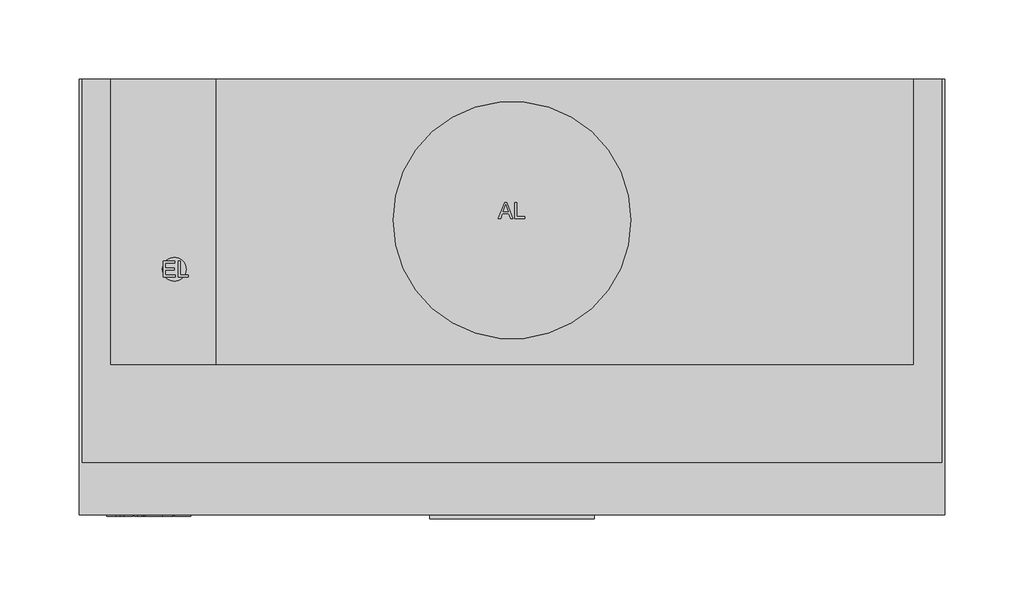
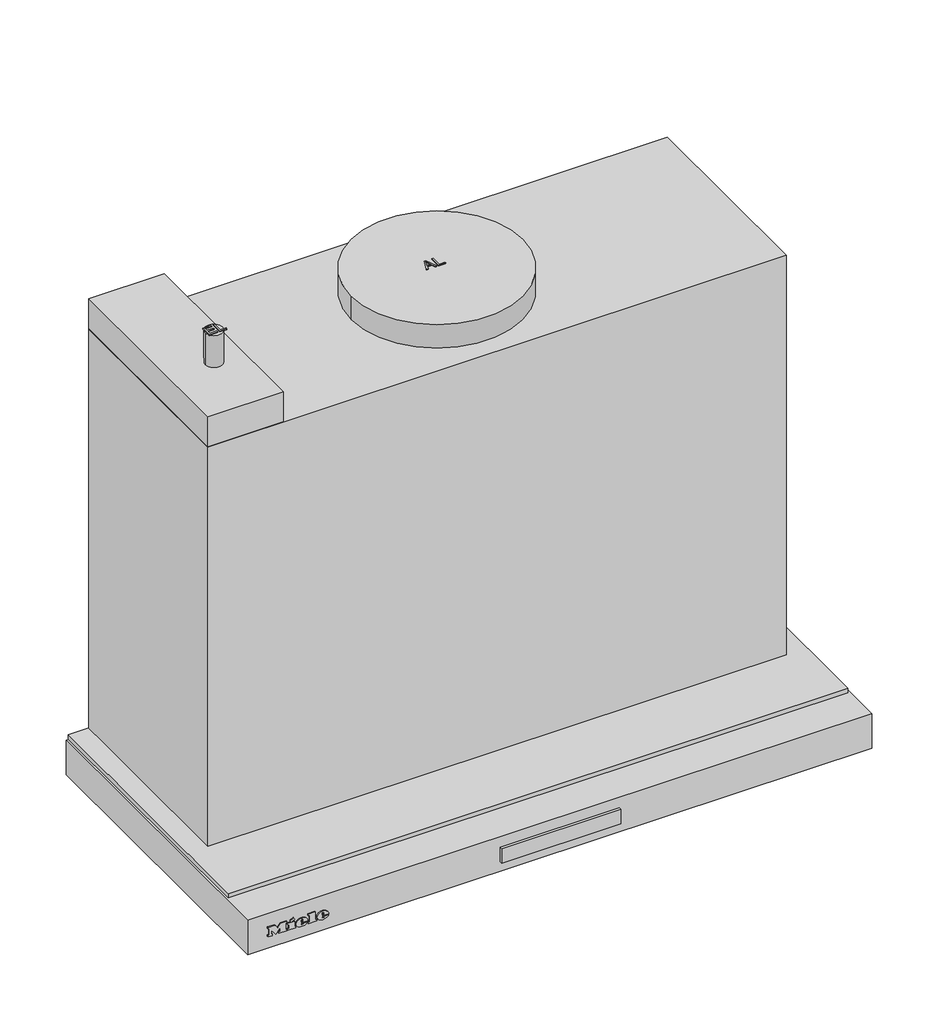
# Not in any storey: 1 proxy.
"""IFC4 building model written with IfcOpenShell, lengths in millimetres."""

from ifc_helpers import new_model, si_unit, origin, place, context, project, spatial, transform, mapped, element, save
from components import specialty_equipment_39baf08e

model = new_model("IFC4")

# Units and contexts
model_context = context("Model", 3, world=origin())
ifc_project = project(units=[si_unit("LENGTHUNIT", "METRE", prefix="MILLI")], contexts=[model_context])

# Site, building
site = spatial("IfcSite", under=ifc_project)
building = spatial("IfcBuilding", under=site)

# Proxy
placement = place(None, origin())
specialty_equipment_shape = specialty_equipment_39baf08e(model_context)
element("IfcBuildingElementProxy", 1, Name="11862880_CH_DAS2520_EDST : 28S2520S_CH_11862880_DAS2520_EDST", ObjectType="11862880_CH_DAS2520_EDST : 28S2520S_CH_11862880_DAS2520_EDST", at=placement, inside=building, context=model_context, shape_type="MappedRepresentation", body=[
    mapped(specialty_equipment_shape, transform((0.0, 0.0, 0.0), x_axis=(1.0, 0.0, 0.0), y_axis=(0.0, 1.0, 0.0), z_axis=(0.0, 0.0, 1.0))),
])

save(model, "model.ifc")
